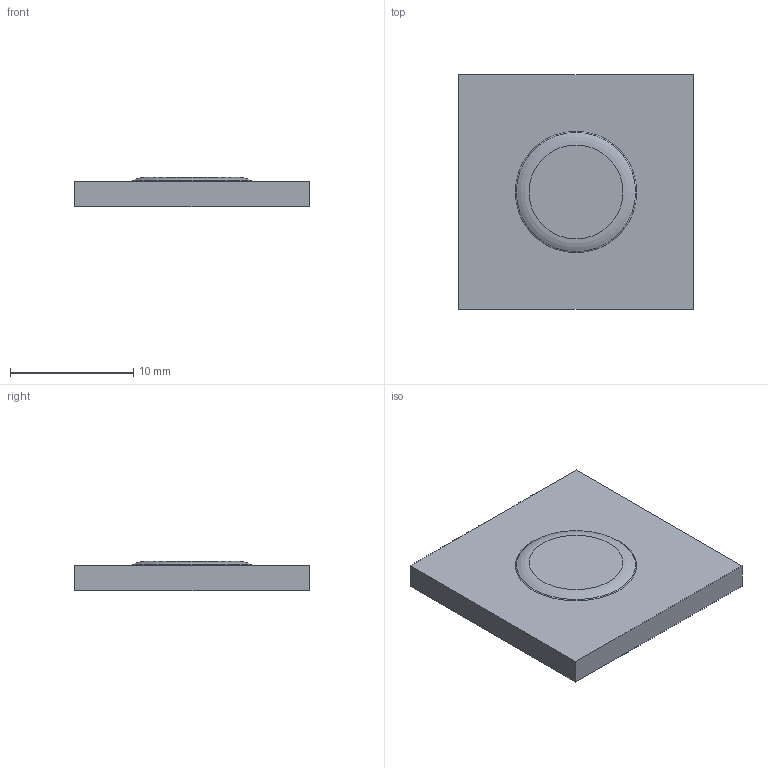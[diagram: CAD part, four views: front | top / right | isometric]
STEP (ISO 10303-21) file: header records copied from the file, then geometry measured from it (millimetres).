
FILE_DESCRIPTION(('PART XYZ REV A'),'1');
FILE_NAME('EF12','2014-03-26T19:23:30',('ERIC'),('TRIAX'),'Spatial Interop R21 SP3','Kubotek KeyCreator 2011 V10.5.1 (25051)','CHAZ');
FILE_SCHEMA(('CONFIG_CONTROL_DESIGN'));
Length unit declared in the file: inch
Products named in the file (1): 1
Bounding box: 19.05 x 19.05 x 2.36 mm (x, y, z)
Volume: 741.6 mm3; surface area: 884.6 mm2
Topology: 1 solids, 1 shells, 12 faces, 24 edges, 16 vertices
Faces by surface type: plane 8, torus 2, cone 2
Entity records: 320 total; most frequent: DIRECTION 50, CARTESIAN_POINT 45, ORIENTED_EDGE 36, AXIS2_PLACEMENT_3D 19, EDGE_LOOP 18, EDGE_CURVE 18, VERTEX_POINT 14, ADVANCED_FACE 12
